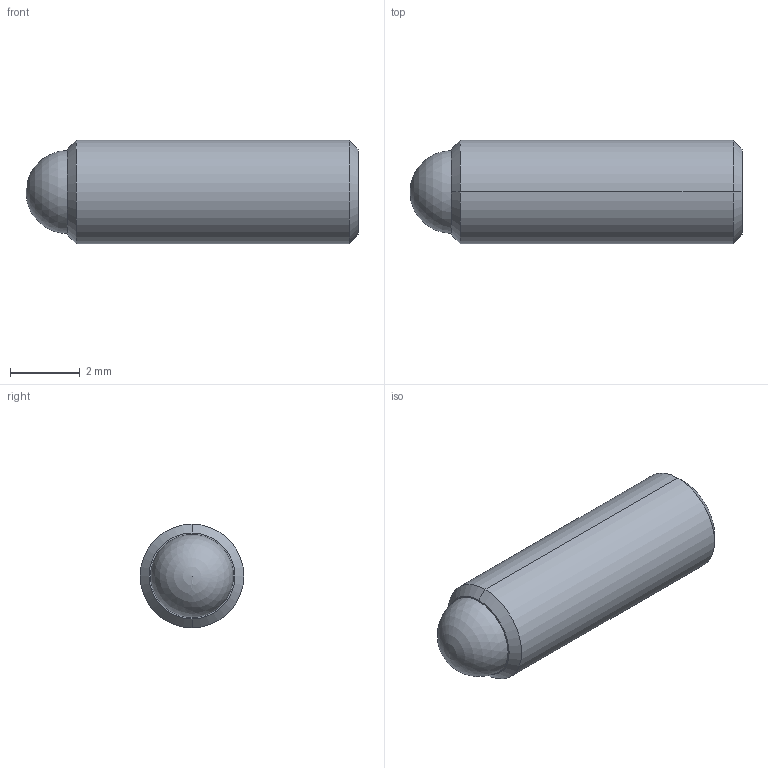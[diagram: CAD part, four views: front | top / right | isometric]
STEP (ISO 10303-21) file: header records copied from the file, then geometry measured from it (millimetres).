
FILE_DESCRIPTION (( 'STEP AP214' ), '1' );
FILE_NAME ('TS6-80-375.STEP', '2014-07-28T19:30:15', ( 'workpc' ), ( 'Microsoft' ), 'SwSTEP 2.0', 'SolidWorks 2013', '' );
FILE_SCHEMA (( 'AUTOMOTIVE_DESIGN' ));
Length unit declared in the file: inch
Products named in the file (1): TS6-80-375
Bounding box: 9.53 x 2.97 x 2.97 mm (x, y, z)
Volume: 51.2 mm3; surface area: 131.2 mm2
Topology: 2 solids, 2 shells, 20 faces, 45 edges, 29 vertices
Faces by surface type: plane 10, cylinder 4, cone 4, sphere 2
Entity records: 573 total; most frequent: DIRECTION 96, CARTESIAN_POINT 87, ORIENTED_EDGE 80, EDGE_CURVE 40, AXIS2_PLACEMENT_3D 35, VECTOR 26, LINE 26, VERTEX_POINT 26
